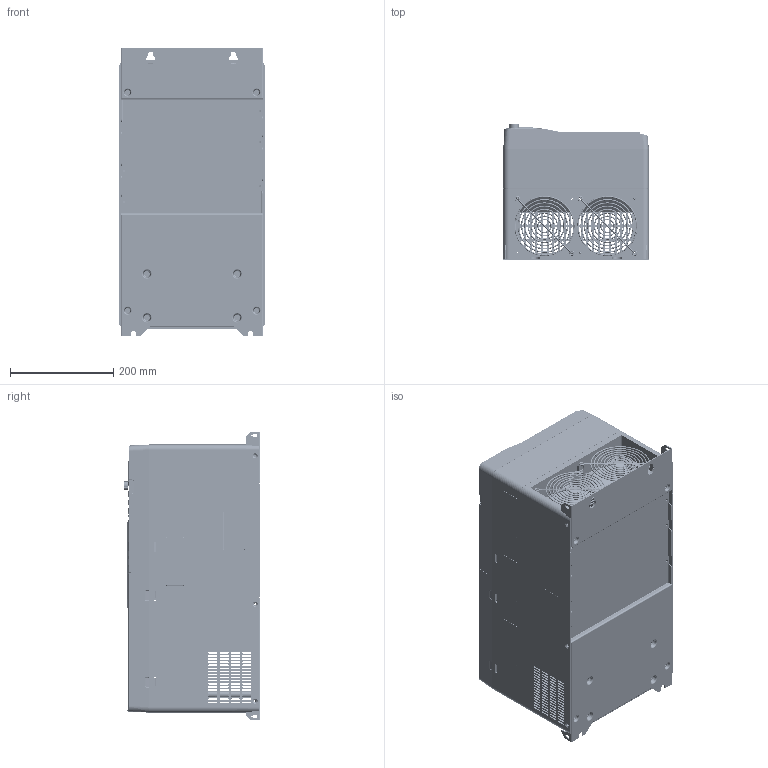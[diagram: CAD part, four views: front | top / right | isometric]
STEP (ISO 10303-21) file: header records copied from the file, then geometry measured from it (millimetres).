
FILE_DESCRIPTION((''),'2;1');
FILE_NAME('GD290-075G090P-4-B00_ASM','2025-04-10T10:57:37',('Administrator'),(''),'CREO PARAMETRIC BY PTC INC, 2019080','CREO PARAMETRIC BY PTC INC, 2019080','');
FILE_SCHEMA(('CONFIG_CONTROL_DESIGN'));
Products named in the file (52): 80710015_1_1; 80310622_1_1; S-M4-ZC_1_1; 80310622_ASM_1_ASM_1_ASM; 80740140_1_1; FENGSHANWANG_S_1_1; PA1704_CT1_A2_2_1; E-DIN0309-5_08MM-TA_1_1; E-DIN0302-5_08MM-TA_1_1; E-USB08-TF_1_1; E-MJ0204-R_1_1; E-MJ0204-100T_1_1; PA1704_CT1_A2_ASM_2_ASM_1_ASM; 0_GD350_PCB_ASM_2_ASM_1_ASM; INVT8_034_0058__1_1; INVT8_034_0059__2_1; JP-PCB__1_1; INVT8_034_0060__1_1; 86410001_1_1; INVT8_034_0064__1_1; SHUMAGUAN__1_1; 001_ASM_1_ASM_1_ASM; GD270-090P-4-ES_ASM_1_ASM_1_ASM; 80810209_1_1; 80880255_1_1; 80810124SY1_1_1; 80810124_1_1; 80810124SY1_ASM_1_ASM_1_ASM; GB9074_13_M8X35_1_1; GD270-090P-4-FS_ASM_2_ASM_1_ASM; 77570601_1_1; NZ-M5-ZC_1_1; 77570601_ASM_1_ASM_1_ASM; 77570602_ASM_2_1; 77570600_1_1; SO-M4-10-ZC_1_1; 77570600_ASM_1_ASM_1_ASM; 77570603_1_1; 77570603_ASM_1_ASM_1_ASM; 77570599_1_1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
Assembly tree (76 placements, depth 7):
  GD290-075G090P-4-B00_ASM
    GD270-090P-4_ASM_ASM_1_ASM
      00-GD270-090P-4_ASM_1_ASM_1_ASM
        80710015_1_1
        80310622_ASM_1_ASM_1_ASM
          80310622_1_1
          S-M4-ZC_1_1  x6
        80740140_1_1
        GD270-090P-4-ES_ASM_1_ASM_1_ASM
          FENGSHANWANG_S_1_1  x2
          0_GD350_PCB_ASM_2_ASM_1_ASM
            PA1704_CT1_A2_ASM_2_ASM_1_ASM
              PA1704_CT1_A2_2_1
              E-DIN0309-5_08MM-TA_1_1
              E-DIN0302-5_08MM-TA_1_1
              E-USB08-TF_1_1
              E-MJ0204-R_1_1
              E-MJ0204-100T_1_1
          001_ASM_1_ASM_1_ASM
            INVT8_034_0058__1_1
            INVT8_034_0059__2_1
            JP-PCB__1_1
            INVT8_034_0060__1_1
            86410001_1_1
            INVT8_034_0064__1_1
            SHUMAGUAN__1_1
        80810209_1_1
        80880255_1_1
        80810124SY1_ASM_1_ASM_1_ASM
          80810124SY1_1_1
          80810124_1_1
        GD270-090P-4-FS_ASM_2_ASM_1_ASM
          GB9074_13_M8X35_1_1  x9
        40850940_ASM_2_ASM_1_ASM
          77570601_ASM_1_ASM_1_ASM  x3
            77570601_1_1
            NZ-M5-ZC_1_1
          77570602_ASM_2_1  x2
          77570600_ASM_1_ASM_1_ASM
            77570600_1_1
            SO-M4-10-ZC_1_1
          77570603_ASM_1_ASM_1_ASM
            77570603_1_1
            SO-M4-10-ZC_1_1
          77570599_ASM_1_ASM_1_ASM
            77570599_1_1
            SO-M4-10-ZC_1_1
          77570605_1_1
        77571312_ASM
          77571312
          NZ-M5-ZC
        77571314_ASM
          77571314
          NZ-M5-ZC
        80740019  x6
Bounding box: 282.6 x 263.69 x 560 mm (x, y, z)
Volume: 2565249.9 mm3; surface area: 2165859.3 mm2
Topology: 59 solids, 59 shells, 12016 faces, 33337 edges, 21671 vertices
Faces by surface type: plane 7628, cylinder 3038, torus 538, cone 365, bspline 234, extrusion 189, sphere 24
Entity records: 365261 total; most frequent: CARTESIAN_POINT 89802, ORIENTED_EDGE 59254, DIRECTION 54058, EDGE_CURVE 29627, VECTOR 21182, LINE 20993, VERTEX_POINT 19335, AXIS2_PLACEMENT_3D 16438
